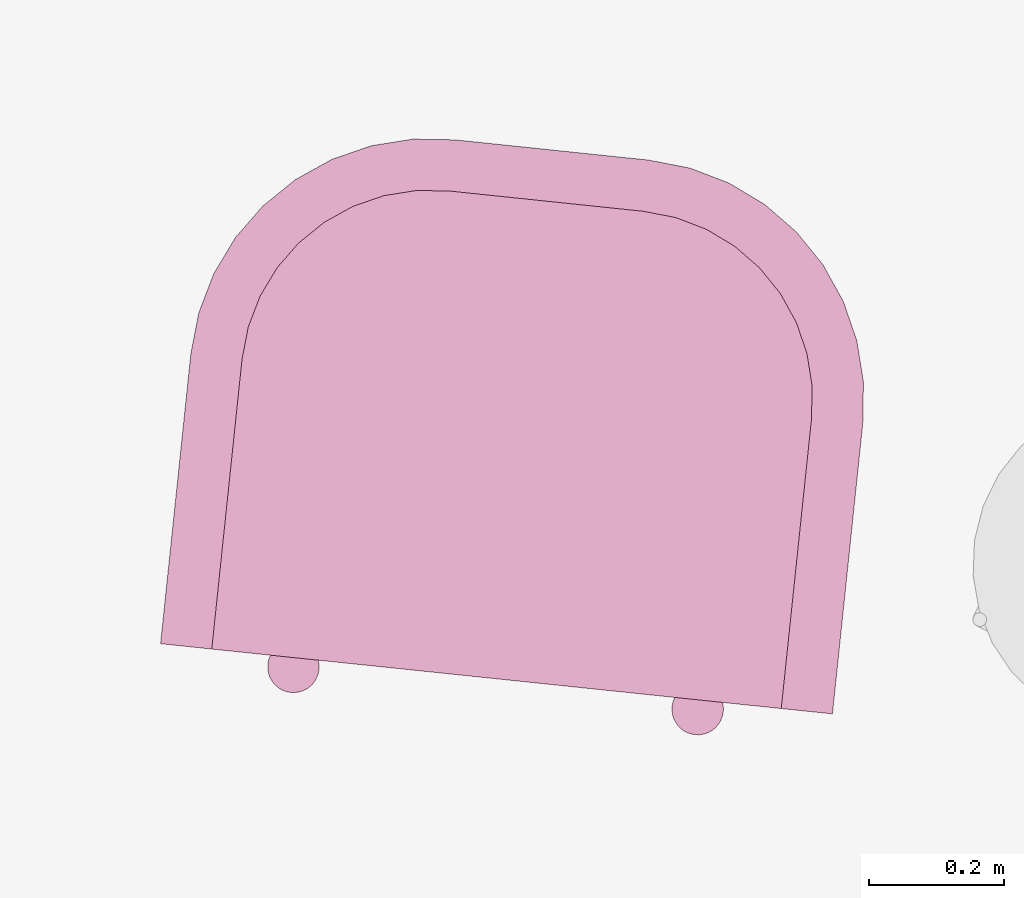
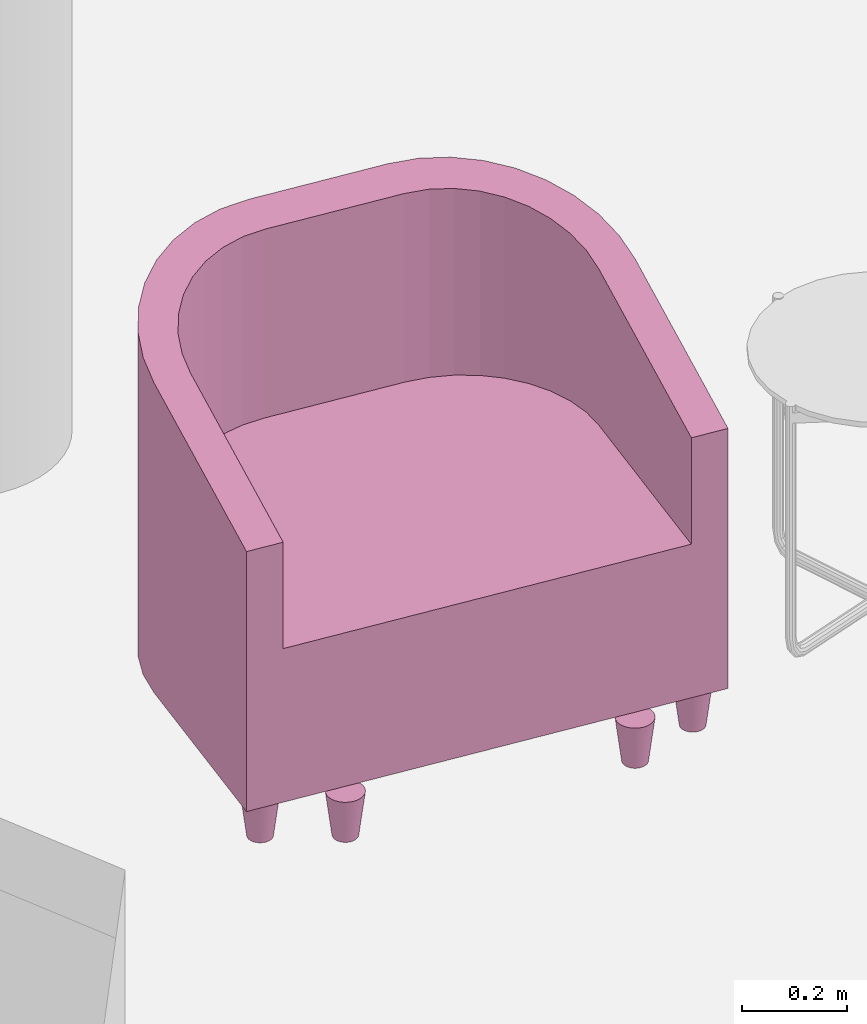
# One storey, part 22 of 36: 1 furnishing.
"""IFC2X3 building model written with IfcOpenShell, lengths in metres."""

from ifc_helpers import new_model, entity, si_unit, converted_unit, derived_unit, money_unit, direction, frame, origin_with_axes, place, context, subcontext, project, spatial, faceted_brep, source, transform, mapped, type_object, element, save


model = new_model("IFC2X3")

# Units and contexts
model_context = context("Model", 3, precision=1e-05, world=origin_with_axes(), true_north=direction((0.0, 1.0)))
body_context = subcontext(model_context, "Body", "Model", "MODEL_VIEW")
ifc_project = project(units=[si_unit("LENGTHUNIT", "METRE"), si_unit("AREAUNIT", "SQUARE_METRE"), si_unit("VOLUMEUNIT", "CUBIC_METRE"), converted_unit("PLANEANGLEUNIT", "DEGREE", entity("IfcPlaneAngleMeasure", 0.0174532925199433), si_unit("PLANEANGLEUNIT", "RADIAN"), dimensions=[0, 0, 0, 0, 0, 0, 0]), money_unit("EUR"), converted_unit("TIMEUNIT", "Year", entity("IfcTimeMeasure", 31556926.0), si_unit("TIMEUNIT", "SECOND"), dimensions=[0, 0, 1, 0, 0, 0, 0]), si_unit("MASSUNIT", "GRAM", prefix="KILO"), si_unit("THERMODYNAMICTEMPERATUREUNIT", "DEGREE_CELSIUS"), si_unit("LUMINOUSINTENSITYUNIT", "LUMEN"), si_unit("ENERGYUNIT", "JOULE", prefix="MEGA"), derived_unit("THERMALCONDUCTANCEUNIT", [(si_unit("POWERUNIT", "WATT"), 1), (si_unit("LENGTHUNIT", "METRE"), -1), (si_unit("THERMODYNAMICTEMPERATUREUNIT", "KELVIN"), -1)]), derived_unit("SPECIFICHEATCAPACITYUNIT", [(si_unit("ENERGYUNIT", "JOULE"), 1), (si_unit("MASSUNIT", "GRAM", prefix="KILO"), -1), (si_unit("THERMODYNAMICTEMPERATUREUNIT", "KELVIN"), -1)]), derived_unit("MASSDENSITYUNIT", [(si_unit("MASSUNIT", "GRAM", prefix="KILO"), 1), (si_unit("VOLUMEUNIT", "CUBIC_METRE"), -1)])], contexts=[model_context])

# Site, building, storey
site_placement = place(None, frame((-3.949935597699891, 1.740105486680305, 0.0), z_axis=(0.0, 0.0, 1.0), x_axis=(0.8799804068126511, -0.475009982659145, 0.0)))
site = spatial("IfcSite", under=ifc_project, at=site_placement, Name="Gelände", CompositionType="ELEMENT")
building_placement = place(site_placement, origin_with_axes())
building = spatial("IfcBuilding", under=site, at=building_placement, Name="Gebäude", CompositionType="ELEMENT")
storey_placement = place(building_placement, origin_with_axes())
storey = spatial("IfcBuildingStorey", under=building, at=storey_placement, Name="Erdgeschoss", CompositionType="ELEMENT", Elevation=0.0)

# Furnishing
furniture_type = type_object("IfcFurnitureType", Name="bucket chair (1)", AssemblyPlace="NOTDEFINED")
shared_shape = source(origin_with_axes(), body_context, "Body", "Brep", [
    faceted_brep([(-0.47421411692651, 0.73188933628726, 0.0), (-0.4867211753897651, 0.72968400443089, 0.1016), (-0.4873, 0.7363000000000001, 0.1016), (-0.4746, 0.7363000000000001, 0.0), (-0.473068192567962, 0.7276126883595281, 0.0), (-0.485002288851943, 0.7232690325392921, 0.1016), (-0.482195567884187, 0.71725, 0.1016), (-0.478386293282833, 0.711809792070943, 0.1016), (-0.4736902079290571, 0.707113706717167, 0.1016), (-0.4682499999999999, 0.7033044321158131, 0.1016), (-0.462230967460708, 0.700497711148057, 0.1016), (-0.45581599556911, 0.698778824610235, 0.1016), (-0.4492, 0.6982000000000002, 0.1016), (-0.44258400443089, 0.698778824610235, 0.1016), (-0.436169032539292, 0.700497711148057, 0.1016), (-0.43015, 0.703304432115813, 0.1016), (-0.4247097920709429, 0.707113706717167, 0.1016), (-0.420013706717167, 0.711809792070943, 0.1016), (-0.4162044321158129, 0.71725, 0.1016), (-0.4133977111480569, 0.7232690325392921, 0.1016), (-0.4116788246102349, 0.72968400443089, 0.1016), (-0.4111, 0.7363000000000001, 0.1016), (-0.4116788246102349, 0.7429159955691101, 0.1016), (-0.4133977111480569, 0.749330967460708, 0.1016), (-0.4162044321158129, 0.7553500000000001, 0.1016), (-0.420013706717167, 0.7607902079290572, 0.1016), (-0.4247097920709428, 0.7654862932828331, 0.1016), (-0.43015, 0.7692955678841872, 0.1016), (-0.436169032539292, 0.7721022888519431, 0.1016), (-0.44258400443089, 0.7738211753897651, 0.1016), (-0.4492, 0.7744000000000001, 0.1016), (-0.45581599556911, 0.7738211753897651, 0.1016), (-0.462230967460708, 0.7721022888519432, 0.1016), (-0.46825, 0.7692955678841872, 0.1016), (-0.4736902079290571, 0.7654862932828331, 0.1016), (-0.4783862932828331, 0.7607902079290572, 0.1016), (-0.4821955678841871, 0.7553500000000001, 0.1016), (-0.4850022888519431, 0.749330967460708, 0.1016), (-0.4867211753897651, 0.7429159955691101, 0.1016), (-0.4742141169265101, 0.7407106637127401, 0.0), (-0.4730681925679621, 0.744987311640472, 0.0), (-0.4711970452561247, 0.7490000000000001, 0.0), (-0.468657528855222, 0.7526268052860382, 0.0), (-0.4655268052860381, 0.7557575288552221, 0.0), (-0.4619, 0.7582970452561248, 0.0), (-0.457887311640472, 0.7601681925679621, 0.0), (-0.45361066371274, 0.7613141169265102, 0.0), (-0.4492, 0.7617, 0.0), (-0.44478933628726, 0.7613141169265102, 0.0), (-0.440512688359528, 0.7601681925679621, 0.0), (-0.4365, 0.7582970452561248, 0.0), (-0.4328731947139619, 0.7557575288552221, 0.0), (-0.429742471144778, 0.7526268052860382, 0.0), (-0.4272029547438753, 0.7490000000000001, 0.0), (-0.4253318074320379, 0.744987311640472, 0.0), (-0.4241858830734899, 0.7407106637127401, 0.0), (-0.4238, 0.7363000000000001, 0.0), (-0.4241858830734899, 0.73188933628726, 0.0), (-0.4253318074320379, 0.7276126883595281, 0.0), (-0.4272029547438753, 0.7236000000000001, 0.0), (-0.429742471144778, 0.719973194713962, 0.0), (-0.4328731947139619, 0.7168424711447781, 0.0), (-0.4365, 0.7143029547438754, 0.0), (-0.440512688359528, 0.712431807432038, 0.0), (-0.44478933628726, 0.71128588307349, 0.0), (-0.4492, 0.7109000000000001, 0.0), (-0.45361066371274, 0.71128588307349, 0.0), (-0.457887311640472, 0.712431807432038, 0.0), (-0.4619, 0.7143029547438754, 0.0), (-0.4655268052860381, 0.7168424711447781, 0.0), (-0.468657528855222, 0.719973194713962, 0.0), (-0.4711970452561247, 0.7236000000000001, 0.0)], [[[0, 1, 2, 3]], [[4, 5, 1, 0]], [[1, 5, 6, 7, 8, 9, 10, 11, 12, 13, 14, 15, 16, 17, 18, 19, 20, 21, 22, 23, 24, 25, 26, 27, 28, 29, 30, 31, 32, 33, 34, 35, 36, 37, 38, 2]], [[3, 2, 38, 39]], [[0, 3, 39, 40, 41, 42, 43, 44, 45, 46, 47, 48, 49, 50, 51, 52, 53, 54, 55, 56, 57, 58, 59, 60, 61, 62, 63, 64, 65, 66, 67, 68, 69, 70, 71, 4]], [[71, 6, 5, 4]], [[70, 7, 6, 71]], [[69, 8, 7, 70]], [[68, 9, 8, 69]], [[67, 10, 9, 68]], [[66, 11, 10, 67]], [[65, 12, 11, 66]], [[64, 13, 12, 65]], [[63, 14, 13, 64]], [[62, 15, 14, 63]], [[61, 16, 15, 62]], [[60, 17, 16, 61]], [[59, 18, 17, 60]], [[58, 19, 18, 59]], [[57, 20, 19, 58]], [[56, 21, 20, 57]], [[55, 22, 21, 56]], [[54, 23, 22, 55]], [[53, 24, 23, 54]], [[52, 25, 24, 53]], [[51, 26, 25, 52]], [[50, 27, 26, 51]], [[49, 28, 27, 50]], [[48, 29, 28, 49]], [[47, 30, 29, 48]], [[46, 31, 30, 47]], [[45, 32, 31, 46]], [[44, 33, 32, 45]], [[43, 34, 33, 44]], [[42, 35, 34, 43]], [[41, 36, 35, 42]], [[40, 37, 36, 41]], [[39, 38, 37, 40]]]),
    faceted_brep([(0.42418588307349, 0.73188933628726, 0.0), (0.4116788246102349, 0.72968400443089, 0.1016), (0.4111, 0.7363000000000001, 0.1016), (0.4238, 0.7363000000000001, 0.0), (0.425331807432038, 0.7276126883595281, 0.0), (0.413397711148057, 0.7232690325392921, 0.1016), (0.4162044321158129, 0.71725, 0.1016), (0.420013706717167, 0.711809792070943, 0.1016), (0.4247097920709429, 0.707113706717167, 0.1016), (0.43015, 0.7033044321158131, 0.1016), (0.436169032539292, 0.700497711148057, 0.1016), (0.44258400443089, 0.698778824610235, 0.1016), (0.4492, 0.6982000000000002, 0.1016), (0.45581599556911, 0.698778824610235, 0.1016), (0.462230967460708, 0.700497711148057, 0.1016), (0.4682499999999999, 0.703304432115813, 0.1016), (0.4736902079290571, 0.707113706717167, 0.1016), (0.478386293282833, 0.711809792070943, 0.1016), (0.482195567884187, 0.71725, 0.1016), (0.4850022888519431, 0.7232690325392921, 0.1016), (0.4867211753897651, 0.72968400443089, 0.1016), (0.4873, 0.7363000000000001, 0.1016), (0.4867211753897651, 0.7429159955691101, 0.1016), (0.4850022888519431, 0.749330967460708, 0.1016), (0.482195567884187, 0.7553500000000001, 0.1016), (0.478386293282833, 0.7607902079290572, 0.1016), (0.4736902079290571, 0.7654862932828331, 0.1016), (0.4682499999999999, 0.7692955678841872, 0.1016), (0.462230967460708, 0.7721022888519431, 0.1016), (0.45581599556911, 0.7738211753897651, 0.1016), (0.4492, 0.7744000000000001, 0.1016), (0.44258400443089, 0.7738211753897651, 0.1016), (0.436169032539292, 0.7721022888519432, 0.1016), (0.43015, 0.7692955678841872, 0.1016), (0.4247097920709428, 0.7654862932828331, 0.1016), (0.4200137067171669, 0.7607902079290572, 0.1016), (0.4162044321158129, 0.7553500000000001, 0.1016), (0.4133977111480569, 0.749330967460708, 0.1016), (0.4116788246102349, 0.7429159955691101, 0.1016), (0.4241858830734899, 0.7407106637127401, 0.0), (0.4253318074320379, 0.744987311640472, 0.0), (0.4272029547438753, 0.7490000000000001, 0.0), (0.4297424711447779, 0.7526268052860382, 0.0), (0.4328731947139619, 0.7557575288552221, 0.0), (0.4365, 0.7582970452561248, 0.0), (0.440512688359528, 0.7601681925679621, 0.0), (0.44478933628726, 0.7613141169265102, 0.0), (0.4492, 0.7617, 0.0), (0.45361066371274, 0.7613141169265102, 0.0), (0.457887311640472, 0.7601681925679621, 0.0), (0.4619, 0.7582970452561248, 0.0), (0.4655268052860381, 0.7557575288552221, 0.0), (0.468657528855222, 0.7526268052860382, 0.0), (0.4711970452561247, 0.7490000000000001, 0.0), (0.4730681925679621, 0.744987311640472, 0.0), (0.4742141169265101, 0.7407106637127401, 0.0), (0.4746, 0.7363000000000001, 0.0), (0.4742141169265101, 0.73188933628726, 0.0), (0.4730681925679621, 0.7276126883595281, 0.0), (0.4711970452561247, 0.7236000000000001, 0.0), (0.468657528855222, 0.719973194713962, 0.0), (0.4655268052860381, 0.7168424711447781, 0.0), (0.4619, 0.7143029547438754, 0.0), (0.457887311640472, 0.712431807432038, 0.0), (0.45361066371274, 0.71128588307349, 0.0), (0.4492, 0.7109000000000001, 0.0), (0.44478933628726, 0.71128588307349, 0.0), (0.440512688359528, 0.712431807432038, 0.0), (0.4365, 0.7143029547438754, 0.0), (0.4328731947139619, 0.7168424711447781, 0.0), (0.429742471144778, 0.719973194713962, 0.0), (0.4272029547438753, 0.7236000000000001, 0.0)], [[[0, 1, 2, 3]], [[4, 5, 1, 0]], [[1, 5, 6, 7, 8, 9, 10, 11, 12, 13, 14, 15, 16, 17, 18, 19, 20, 21, 22, 23, 24, 25, 26, 27, 28, 29, 30, 31, 32, 33, 34, 35, 36, 37, 38, 2]], [[3, 2, 38, 39]], [[0, 3, 39, 40, 41, 42, 43, 44, 45, 46, 47, 48, 49, 50, 51, 52, 53, 54, 55, 56, 57, 58, 59, 60, 61, 62, 63, 64, 65, 66, 67, 68, 69, 70, 71, 4]], [[71, 6, 5, 4]], [[70, 7, 6, 71]], [[69, 8, 7, 70]], [[68, 9, 8, 69]], [[67, 10, 9, 68]], [[66, 11, 10, 67]], [[65, 12, 11, 66]], [[64, 13, 12, 65]], [[63, 14, 13, 64]], [[62, 15, 14, 63]], [[61, 16, 15, 62]], [[60, 17, 16, 61]], [[59, 18, 17, 60]], [[58, 19, 18, 59]], [[57, 20, 19, 58]], [[56, 21, 20, 57]], [[55, 22, 21, 56]], [[54, 23, 22, 55]], [[53, 24, 23, 54]], [[52, 25, 24, 53]], [[51, 26, 25, 52]], [[50, 27, 26, 51]], [[49, 28, 27, 50]], [[48, 29, 28, 49]], [[47, 30, 29, 48]], [[46, 31, 30, 47]], [[45, 32, 31, 46]], [[44, 33, 32, 45]], [[43, 34, 33, 44]], [[42, 35, 34, 43]], [[41, 36, 35, 42]], [[40, 37, 36, 41]], [[39, 38, 37, 40]]]),
    faceted_brep([(-0.3258141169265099, 0.7963893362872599, 0.0), (-0.338321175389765, 0.7941840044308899, 0.1016), (-0.3388999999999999, 0.8008, 0.1016), (-0.3261999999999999, 0.8008, 0.0), (-0.3246681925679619, 0.792112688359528, 0.0), (-0.3366022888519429, 0.787769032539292, 0.1016), (-0.333795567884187, 0.78175, 0.1016), (-0.3299862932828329, 0.7763097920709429, 0.1016), (-0.325290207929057, 0.7716137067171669, 0.1016), (-0.3198499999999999, 0.767804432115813, 0.1016), (-0.3138309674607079, 0.7649977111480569, 0.1016), (-0.3074159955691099, 0.7632788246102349, 0.1016), (-0.3007999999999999, 0.7627, 0.1016), (-0.2941840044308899, 0.7632788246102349, 0.1016), (-0.2877690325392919, 0.7649977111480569, 0.1016), (-0.2817499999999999, 0.7678044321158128, 0.1016), (-0.2763097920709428, 0.7716137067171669, 0.1016), (-0.2716137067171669, 0.7763097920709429, 0.1016), (-0.2678044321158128, 0.78175, 0.1016), (-0.2649977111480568, 0.787769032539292, 0.1016), (-0.2632788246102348, 0.7941840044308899, 0.1016), (-0.2626999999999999, 0.8008, 0.1016), (-0.2632788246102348, 0.80741599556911, 0.1016), (-0.2649977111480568, 0.8138309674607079, 0.1016), (-0.2678044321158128, 0.81985, 0.1016), (-0.2716137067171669, 0.825290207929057, 0.1016), (-0.2763097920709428, 0.829986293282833, 0.1016), (-0.2817499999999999, 0.8337955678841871, 0.1016), (-0.2877690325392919, 0.8366022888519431, 0.1016), (-0.2941840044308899, 0.838321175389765, 0.1016), (-0.3007999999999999, 0.8389, 0.1016), (-0.3074159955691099, 0.838321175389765, 0.1016), (-0.3138309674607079, 0.8366022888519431, 0.1016), (-0.3198499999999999, 0.8337955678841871, 0.1016), (-0.3252902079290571, 0.829986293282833, 0.1016), (-0.329986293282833, 0.825290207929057, 0.1016), (-0.333795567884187, 0.81985, 0.1016), (-0.336602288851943, 0.8138309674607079, 0.1016), (-0.338321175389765, 0.80741599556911, 0.1016), (-0.32581411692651, 0.80521066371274, 0.0), (-0.324668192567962, 0.8094873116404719, 0.0), (-0.3227970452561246, 0.8135, 0.0), (-0.320257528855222, 0.8171268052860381, 0.0), (-0.317126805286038, 0.820257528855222, 0.0), (-0.3134999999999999, 0.8227970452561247, 0.0), (-0.3094873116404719, 0.824668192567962, 0.0), (-0.3052106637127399, 0.8258141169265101, 0.0), (-0.3007999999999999, 0.8261999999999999, 0.0), (-0.2963893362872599, 0.8258141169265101, 0.0), (-0.2921126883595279, 0.824668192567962, 0.0), (-0.2880999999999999, 0.8227970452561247, 0.0), (-0.2844731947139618, 0.820257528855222, 0.0), (-0.2813424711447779, 0.8171268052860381, 0.0), (-0.2788029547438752, 0.8135, 0.0), (-0.2769318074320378, 0.8094873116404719, 0.0), (-0.2757858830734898, 0.80521066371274, 0.0), (-0.2753999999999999, 0.8008, 0.0), (-0.2757858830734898, 0.7963893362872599, 0.0), (-0.2769318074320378, 0.792112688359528, 0.0), (-0.2788029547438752, 0.7881, 0.0), (-0.2813424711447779, 0.7844731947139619, 0.0), (-0.2844731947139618, 0.781342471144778, 0.0), (-0.2880999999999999, 0.7788029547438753, 0.0), (-0.2921126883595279, 0.7769318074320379, 0.0), (-0.2963893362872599, 0.77578588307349, 0.0), (-0.3007999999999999, 0.7754, 0.0), (-0.3052106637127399, 0.77578588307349, 0.0), (-0.3094873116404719, 0.7769318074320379, 0.0), (-0.3134999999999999, 0.7788029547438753, 0.0), (-0.317126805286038, 0.781342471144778, 0.0), (-0.3202575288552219, 0.7844731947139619, 0.0), (-0.3227970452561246, 0.7881, 0.0)], [[[0, 1, 2, 3]], [[4, 5, 1, 0]], [[1, 5, 6, 7, 8, 9, 10, 11, 12, 13, 14, 15, 16, 17, 18, 19, 20, 21, 22, 23, 24, 25, 26, 27, 28, 29, 30, 31, 32, 33, 34, 35, 36, 37, 38, 2]], [[3, 2, 38, 39]], [[0, 3, 39, 40, 41, 42, 43, 44, 45, 46, 47, 48, 49, 50, 51, 52, 53, 54, 55, 56, 57, 58, 59, 60, 61, 62, 63, 64, 65, 66, 67, 68, 69, 70, 71, 4]], [[71, 6, 5, 4]], [[70, 7, 6, 71]], [[69, 8, 7, 70]], [[68, 9, 8, 69]], [[67, 10, 9, 68]], [[66, 11, 10, 67]], [[65, 12, 11, 66]], [[64, 13, 12, 65]], [[63, 14, 13, 64]], [[62, 15, 14, 63]], [[61, 16, 15, 62]], [[60, 17, 16, 61]], [[59, 18, 17, 60]], [[58, 19, 18, 59]], [[57, 20, 19, 58]], [[56, 21, 20, 57]], [[55, 22, 21, 56]], [[54, 23, 22, 55]], [[53, 24, 23, 54]], [[52, 25, 24, 53]], [[51, 26, 25, 52]], [[50, 27, 26, 51]], [[49, 28, 27, 50]], [[48, 29, 28, 49]], [[47, 30, 29, 48]], [[46, 31, 30, 47]], [[45, 32, 31, 46]], [[44, 33, 32, 45]], [[43, 34, 33, 44]], [[42, 35, 34, 43]], [[41, 36, 35, 42]], [[40, 37, 36, 41]], [[39, 38, 37, 40]]]),
    faceted_brep([(0.2757858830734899, 0.7963893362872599, 0.0), (0.2632788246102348, 0.7941840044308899, 0.1016), (0.2626999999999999, 0.8008, 0.1016), (0.2753999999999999, 0.8008, 0.0), (0.2769318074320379, 0.792112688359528, 0.0), (0.2649977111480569, 0.787769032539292, 0.1016), (0.2678044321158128, 0.78175, 0.1016), (0.2716137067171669, 0.7763097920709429, 0.1016), (0.2763097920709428, 0.7716137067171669, 0.1016), (0.2817499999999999, 0.767804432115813, 0.1016), (0.2877690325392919, 0.7649977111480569, 0.1016), (0.2941840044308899, 0.7632788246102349, 0.1016), (0.3007999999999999, 0.7627, 0.1016), (0.3074159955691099, 0.7632788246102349, 0.1016), (0.3138309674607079, 0.7649977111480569, 0.1016), (0.3198499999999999, 0.7678044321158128, 0.1016), (0.325290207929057, 0.7716137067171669, 0.1016), (0.3299862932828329, 0.7763097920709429, 0.1016), (0.333795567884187, 0.78175, 0.1016), (0.336602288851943, 0.787769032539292, 0.1016), (0.338321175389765, 0.7941840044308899, 0.1016), (0.3388999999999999, 0.8008, 0.1016), (0.338321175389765, 0.80741599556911, 0.1016), (0.336602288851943, 0.8138309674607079, 0.1016), (0.333795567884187, 0.81985, 0.1016), (0.3299862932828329, 0.825290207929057, 0.1016), (0.3252902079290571, 0.829986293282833, 0.1016), (0.3198499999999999, 0.8337955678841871, 0.1016), (0.3138309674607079, 0.8366022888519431, 0.1016), (0.3074159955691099, 0.838321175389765, 0.1016), (0.3007999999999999, 0.8389, 0.1016), (0.2941840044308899, 0.838321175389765, 0.1016), (0.2877690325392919, 0.8366022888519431, 0.1016), (0.2817499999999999, 0.8337955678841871, 0.1016), (0.2763097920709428, 0.829986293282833, 0.1016), (0.2716137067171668, 0.825290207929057, 0.1016), (0.2678044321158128, 0.81985, 0.1016), (0.2649977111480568, 0.8138309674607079, 0.1016), (0.2632788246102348, 0.80741599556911, 0.1016), (0.2757858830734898, 0.80521066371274, 0.0), (0.2769318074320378, 0.8094873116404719, 0.0), (0.2788029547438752, 0.8135, 0.0), (0.2813424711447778, 0.8171268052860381, 0.0), (0.2844731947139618, 0.820257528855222, 0.0), (0.2880999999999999, 0.8227970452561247, 0.0), (0.2921126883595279, 0.824668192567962, 0.0), (0.2963893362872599, 0.8258141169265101, 0.0), (0.3007999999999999, 0.8261999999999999, 0.0), (0.3052106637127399, 0.8258141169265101, 0.0), (0.3094873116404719, 0.824668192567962, 0.0), (0.3134999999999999, 0.8227970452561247, 0.0), (0.317126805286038, 0.820257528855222, 0.0), (0.3202575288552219, 0.8171268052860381, 0.0), (0.3227970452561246, 0.8135, 0.0), (0.324668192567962, 0.8094873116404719, 0.0), (0.32581411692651, 0.80521066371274, 0.0), (0.3261999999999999, 0.8008, 0.0), (0.32581411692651, 0.7963893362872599, 0.0), (0.324668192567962, 0.792112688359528, 0.0), (0.3227970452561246, 0.7881, 0.0), (0.3202575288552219, 0.7844731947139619, 0.0), (0.317126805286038, 0.781342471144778, 0.0), (0.3134999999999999, 0.7788029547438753, 0.0), (0.3094873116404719, 0.7769318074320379, 0.0), (0.3052106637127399, 0.77578588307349, 0.0), (0.3007999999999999, 0.7754, 0.0), (0.2963893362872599, 0.77578588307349, 0.0), (0.2921126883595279, 0.7769318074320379, 0.0), (0.2880999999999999, 0.7788029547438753, 0.0), (0.2844731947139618, 0.781342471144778, 0.0), (0.2813424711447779, 0.7844731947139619, 0.0), (0.2788029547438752, 0.7881, 0.0)], [[[0, 1, 2, 3]], [[4, 5, 1, 0]], [[1, 5, 6, 7, 8, 9, 10, 11, 12, 13, 14, 15, 16, 17, 18, 19, 20, 21, 22, 23, 24, 25, 26, 27, 28, 29, 30, 31, 32, 33, 34, 35, 36, 37, 38, 2]], [[3, 2, 38, 39]], [[0, 3, 39, 40, 41, 42, 43, 44, 45, 46, 47, 48, 49, 50, 51, 52, 53, 54, 55, 56, 57, 58, 59, 60, 61, 62, 63, 64, 65, 66, 67, 68, 69, 70, 71, 4]], [[71, 6, 5, 4]], [[70, 7, 6, 71]], [[69, 8, 7, 70]], [[68, 9, 8, 69]], [[67, 10, 9, 68]], [[66, 11, 10, 67]], [[65, 12, 11, 66]], [[64, 13, 12, 65]], [[63, 14, 13, 64]], [[62, 15, 14, 63]], [[61, 16, 15, 62]], [[60, 17, 16, 61]], [[59, 18, 17, 60]], [[58, 19, 18, 59]], [[57, 20, 19, 58]], [[56, 21, 20, 57]], [[55, 22, 21, 56]], [[54, 23, 22, 55]], [[53, 24, 23, 54]], [[52, 25, 24, 53]], [[51, 26, 25, 52]], [[50, 27, 26, 51]], [[49, 28, 27, 50]], [[48, 29, 28, 49]], [[47, 30, 29, 48]], [[46, 31, 30, 47]], [[45, 32, 31, 46]], [[44, 33, 32, 45]], [[43, 34, 33, 44]], [[42, 35, 34, 43]], [[41, 36, 35, 42]], [[40, 37, 36, 41]], [[39, 38, 37, 40]]]),
    faceted_brep([(0.5, 0.7871, 0.1016), (0.5, 0.7871, 0.7034971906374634), (0.5, 0.3556, 0.8191172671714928), (0.5, 0.3556, 0.1016), (0.4238, 0.7871, 0.1016), (0.4238, 0.7871, 0.7034971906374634), (0.4238, 0.3556000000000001, 0.8191172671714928), (0.4195552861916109, 0.3070826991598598, 0.8321174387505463), (0.4069501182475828, 0.2600395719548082, 0.8447226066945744), (0.3863674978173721, 0.2159000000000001, 0.8565497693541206), (0.3584328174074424, 0.176005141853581, 0.8672395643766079), (0.323994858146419, 0.1415671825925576, 0.8764671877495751), (0.2841, 0.1136325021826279, 0.8839522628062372), (0.2399604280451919, 0.09304988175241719, 0.8894673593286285), (0.1929173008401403, 0.08044471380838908, 0.8928449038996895), (0.1444, 0.0762, 0.8939822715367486), (-0.1444000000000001, 0.07620000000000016, 0.8939822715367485), (-0.1929173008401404, 0.08044471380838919, 0.8928449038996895), (-0.2399604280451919, 0.0930498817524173, 0.8894673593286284), (-0.2841, 0.1136325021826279, 0.8839522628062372), (-0.3239948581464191, 0.1415671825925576, 0.8764671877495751), (-0.3584328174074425, 0.176005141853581, 0.8672395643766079), (-0.3863674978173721, 0.2159000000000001, 0.8565497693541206), (-0.4069501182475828, 0.2600395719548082, 0.8447226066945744), (-0.4195552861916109, 0.3070826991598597, 0.8321174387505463), (-0.4238, 0.3556, 0.8191172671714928), (-0.4238, 0.7871, 0.7034971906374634), (-0.5, 0.7871, 0.7034971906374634), (-0.4999999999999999, 0.3555999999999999, 0.8191172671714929), (-0.494597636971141, 0.2938507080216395, 0.8356629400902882), (-0.4785546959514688, 0.2339776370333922, 0.8517058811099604), (-0.4523586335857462, 0.1778, 0.8667586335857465), (-0.4168054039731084, 0.1270247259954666, 0.8803638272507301), (-0.3729752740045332, 0.08319459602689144, 0.8921080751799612), (-0.3221999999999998, 0.04764136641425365, 0.9016345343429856), (-0.2660223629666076, 0.02144530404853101, 0.9086537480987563), (-0.2061492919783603, 0.005402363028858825, 0.9129524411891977), (-0.1444, 0.0, 0.9144000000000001), (0.0, 0.0, 0.9144000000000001), (0.1444000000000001, 0.0, 0.9144000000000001), (0.2061492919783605, 0.005402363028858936, 0.9129524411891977), (0.2660223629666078, 0.02144530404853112, 0.9086537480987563), (0.3222, 0.04764136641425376, 0.9016345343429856), (0.3729752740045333, 0.08319459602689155, 0.892108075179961), (0.4168054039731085, 0.1270247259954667, 0.8803638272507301), (0.4523586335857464, 0.1778000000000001, 0.8667586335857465), (0.4785546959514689, 0.2339776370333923, 0.8517058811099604), (0.4945976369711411, 0.2938507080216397, 0.8356629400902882), (0.4945976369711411, 0.2938507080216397, 0.1016), (0.4785546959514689, 0.2339776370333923, 0.1016), (0.4523586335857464, 0.1778000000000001, 0.1016), (0.4168054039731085, 0.1270247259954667, 0.1016), (0.3729752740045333, 0.08319459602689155, 0.1016), (0.3222, 0.04764136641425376, 0.1016), (0.2660223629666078, 0.02144530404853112, 0.1016), (0.2061492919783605, 0.005402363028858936, 0.1016), (0.1444000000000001, 0.0, 0.1016), (0.0, 0.0, 0.1016), (-0.1444, 0.0, 0.1016), (-0.2061492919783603, 0.005402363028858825, 0.1016), (-0.2660223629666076, 0.02144530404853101, 0.1016), (-0.3221999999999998, 0.04764136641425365, 0.1016), (-0.3729752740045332, 0.08319459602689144, 0.1016), (-0.4168054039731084, 0.1270247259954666, 0.1016), (-0.4523586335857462, 0.1778, 0.1016), (-0.4785546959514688, 0.2339776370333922, 0.1016), (-0.494597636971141, 0.2938507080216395, 0.1016), (-0.4999999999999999, 0.3555999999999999, 0.1016), (-0.5, 0.7871, 0.1016), (-0.4238, 0.7871, 0.1016), (-0.4238, 0.3556, 0.1016), (-0.4195552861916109, 0.3070826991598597, 0.1016), (-0.4069501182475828, 0.2600395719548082, 0.1016), (-0.3863674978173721, 0.2159000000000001, 0.1016), (-0.3584328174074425, 0.176005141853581, 0.1016), (-0.3239948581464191, 0.1415671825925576, 0.1016), (-0.2841, 0.1136325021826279, 0.1016), (-0.2399604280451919, 0.0930498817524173, 0.1016), (-0.1929173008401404, 0.08044471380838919, 0.1016), (-0.1444000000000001, 0.07620000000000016, 0.1016), (0.1444, 0.0762, 0.1016), (0.1929173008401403, 0.08044471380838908, 0.1016), (0.2399604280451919, 0.09304988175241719, 0.1016), (0.2841, 0.1136325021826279, 0.1016), (0.323994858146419, 0.1415671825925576, 0.1016), (0.3584328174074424, 0.176005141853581, 0.1016), (0.3863674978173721, 0.2159000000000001, 0.1016), (0.4069501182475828, 0.2600395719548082, 0.1016), (0.4195552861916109, 0.3070826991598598, 0.1016), (0.4238, 0.3556000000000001, 0.1016)], [[[0, 1, 2, 3]], [[4, 5, 1, 0]], [[1, 5, 6, 7, 8, 9, 10, 11, 12, 13, 14, 15, 16, 17, 18, 19, 20, 21, 22, 23, 24, 25, 26, 27, 28, 29, 30, 31, 32, 33, 34, 35, 36, 37, 38, 39, 40, 41, 42, 43, 44, 45, 46, 47, 2]], [[3, 2, 47, 48]], [[0, 3, 48, 49, 50, 51, 52, 53, 54, 55, 56, 57, 58, 59, 60, 61, 62, 63, 64, 65, 66, 67, 68, 69, 70, 71, 72, 73, 74, 75, 76, 77, 78, 79, 80, 81, 82, 83, 84, 85, 86, 87, 88, 89, 4]], [[89, 6, 5, 4]], [[88, 7, 6, 89]], [[87, 8, 7, 88]], [[86, 9, 8, 87]], [[85, 10, 9, 86]], [[84, 11, 10, 85]], [[83, 12, 11, 84]], [[82, 13, 12, 83]], [[81, 14, 13, 82]], [[80, 15, 14, 81]], [[79, 16, 15, 80]], [[78, 17, 16, 79]], [[77, 18, 17, 78]], [[76, 19, 18, 77]], [[75, 20, 19, 76]], [[74, 21, 20, 75]], [[73, 22, 21, 74]], [[72, 23, 22, 73]], [[71, 24, 23, 72]], [[70, 25, 24, 71]], [[69, 26, 25, 70]], [[68, 27, 26, 69]], [[67, 28, 27, 68]], [[66, 29, 28, 67]], [[65, 30, 29, 66]], [[64, 31, 30, 65]], [[63, 32, 31, 64]], [[62, 33, 32, 63]], [[61, 34, 33, 62]], [[60, 35, 34, 61]], [[59, 36, 35, 60]], [[58, 37, 36, 59]], [[57, 38, 37, 58]], [[56, 39, 38, 57]], [[55, 40, 39, 56]], [[54, 41, 40, 55]], [[53, 42, 41, 54]], [[52, 43, 42, 53]], [[51, 44, 43, 52]], [[50, 45, 44, 51]], [[49, 46, 45, 50]], [[48, 47, 46, 49]]]),
    faceted_brep([(0.4238, 0.7871, 0.1016), (0.4238, 0.7871, 0.4572000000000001), (0.4238, 0.3556000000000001, 0.4572000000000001), (0.4238, 0.3556000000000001, 0.1016), (-0.4238, 0.7871, 0.1016), (-0.4238, 0.7871, 0.4572000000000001), (-0.4238, 0.3556, 0.4572000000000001), (-0.4195552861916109, 0.3070826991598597, 0.4572000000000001), (-0.4069501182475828, 0.2600395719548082, 0.4572000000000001), (-0.3863674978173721, 0.2159000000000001, 0.4572000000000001), (-0.3584328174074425, 0.176005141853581, 0.4572000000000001), (-0.3239948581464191, 0.1415671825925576, 0.4572000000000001), (-0.2841, 0.1136325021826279, 0.4572000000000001), (-0.2399604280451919, 0.0930498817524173, 0.4572000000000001), (-0.1929173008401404, 0.08044471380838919, 0.4572000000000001), (-0.1444000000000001, 0.07620000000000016, 0.4572000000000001), (0.1444, 0.0762, 0.4572000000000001), (0.1929173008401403, 0.08044471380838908, 0.4572000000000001), (0.2399604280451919, 0.09304988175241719, 0.4572000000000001), (0.2841, 0.1136325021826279, 0.4572000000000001), (0.323994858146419, 0.1415671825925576, 0.4572000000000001), (0.3584328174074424, 0.176005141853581, 0.4572000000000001), (0.3863674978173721, 0.2159000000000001, 0.4572000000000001), (0.4069501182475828, 0.2600395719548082, 0.4572000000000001), (0.4195552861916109, 0.3070826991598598, 0.4572000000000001), (0.4195552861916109, 0.3070826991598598, 0.1016), (0.4069501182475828, 0.2600395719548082, 0.1016), (0.3863674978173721, 0.2159000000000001, 0.1016), (0.3584328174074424, 0.176005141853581, 0.1016), (0.323994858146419, 0.1415671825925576, 0.1016), (0.2841, 0.1136325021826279, 0.1016), (0.2399604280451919, 0.09304988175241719, 0.1016), (0.1929173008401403, 0.08044471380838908, 0.1016), (0.1444, 0.0762, 0.1016), (-0.1444000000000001, 0.07620000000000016, 0.1016), (-0.1929173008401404, 0.08044471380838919, 0.1016), (-0.2399604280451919, 0.0930498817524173, 0.1016), (-0.2841, 0.1136325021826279, 0.1016), (-0.3239948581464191, 0.1415671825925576, 0.1016), (-0.3584328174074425, 0.176005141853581, 0.1016), (-0.3863674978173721, 0.2159000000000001, 0.1016), (-0.4069501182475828, 0.2600395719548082, 0.1016), (-0.4195552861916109, 0.3070826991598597, 0.1016), (-0.4238, 0.3556, 0.1016)], [[[0, 1, 2, 3]], [[4, 5, 1, 0]], [[1, 5, 6, 7, 8, 9, 10, 11, 12, 13, 14, 15, 16, 17, 18, 19, 20, 21, 22, 23, 24, 2]], [[3, 2, 24, 25]], [[0, 3, 25, 26, 27, 28, 29, 30, 31, 32, 33, 34, 35, 36, 37, 38, 39, 40, 41, 42, 43, 4]], [[43, 6, 5, 4]], [[42, 7, 6, 43]], [[41, 8, 7, 42]], [[40, 9, 8, 41]], [[39, 10, 9, 40]], [[38, 11, 10, 39]], [[37, 12, 11, 38]], [[36, 13, 12, 37]], [[35, 14, 13, 36]], [[34, 15, 14, 35]], [[33, 16, 15, 34]], [[32, 17, 16, 33]], [[31, 18, 17, 32]], [[30, 19, 18, 31]], [[29, 20, 19, 30]], [[28, 21, 20, 29]], [[27, 22, 21, 28]], [[26, 23, 22, 27]], [[25, 24, 23, 26]]]),
])
furnishing_placement = place(storey_placement, frame((23.51449461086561, 6.407328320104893, 0.0), z_axis=(0.0, 0.0, 1.0), x_axis=(-0.9245679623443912, -0.3810171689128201, 0.0)))
element("IfcFurnishingElement", 1, at=furnishing_placement, inside=storey, type_object=furniture_type, Name="Objekt-0069", ObjectType="FURNITURE", context=body_context, shape_type="MappedRepresentation", body=[
    mapped(shared_shape, transform((0.0, 0.0, 0.0))),
])

save(model, "model.ifc")
